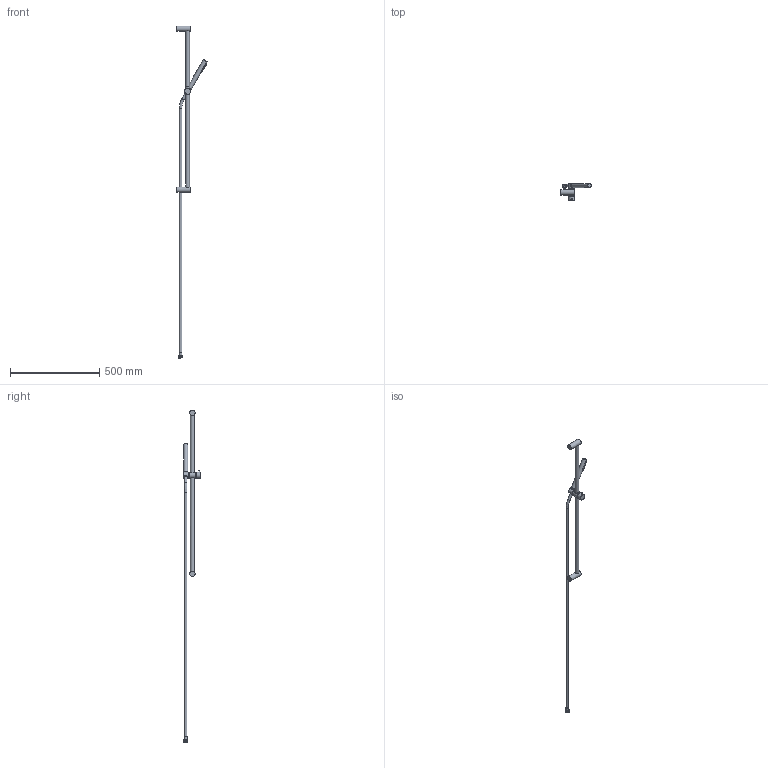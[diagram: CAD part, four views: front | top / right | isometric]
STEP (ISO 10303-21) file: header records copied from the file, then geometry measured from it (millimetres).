
FILE_DESCRIPTION(('STEP AP214'), '1');
FILE_NAME('ANCR121L9', '', ('UNSPECIFIED'), ('UNSPECIFIED'), 'ASCON STEP Converter 1.6', 'ASCON Math Kernel', '');
FILE_SCHEMA(('AUTOMOTIVE_DESIGN { 1 0 10303 214 3 1 1}'));
Length unit declared in the file: millimetre
Bounding box: 169.24 x 95 x 1855.8 mm (x, y, z)
Volume: 834148.6 mm3; surface area: 186955.2 mm2
Topology: 46 solids, 46 shells, 569 faces, 1261 edges, 822 vertices
Faces by surface type: plane 249, cylinder 173, cone 81, bspline 46, torus 16, sphere 4
Full cylindrical faces by diameter (mm): 2.5 x40, 7 x1, 14 x2, 15 x1, 19 x1, 22 x2, 22.4 x1, 24 x1, 30 x2, 35 x3
Entity records: 40150 total; most frequent: CARTESIAN_POINT 23511, DIRECTION 2448, ORIENTED_EDGE 2064, AXIS2_PLACEMENT_3D 1106, EDGE_CURVE 1032, EDGE_LOOP 886, VERTEX_POINT 790, COLOUR_RGB 615
